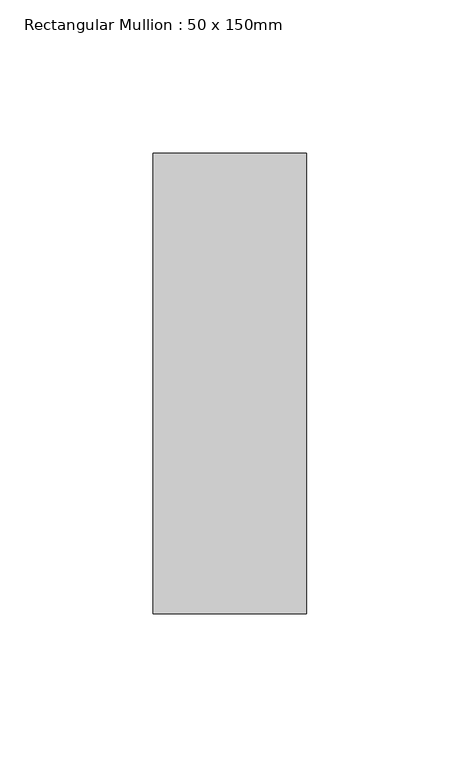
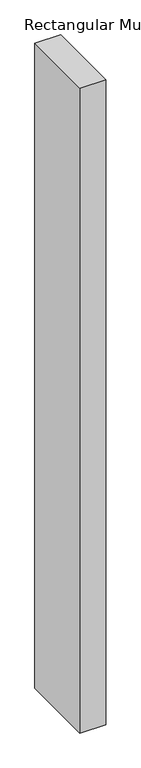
"""IFC4 building model written with IfcOpenShell, lengths in millimetres: member geometry, Rectangular Mullion : 50 x 150mm."""

from ifc_helpers import new_model, si_unit, frame, origin, place, context, project, spatial, polyline, outline, extrude, source, transform, mapped, element, save


def rectangular_mullion_50_x_150mm_0efa07df(model_context):
    return source(origin(), model_context, "Body", "SweptSolid", [
        extrude(outline(polyline([(25.0, 75.0), (25.0, -75.0), (-25.0, -75.0), (-25.0, 75.0), (25.0, 75.0)])), frame((0.0, 0.0, -1315.186135), z_axis=(0.0, 0.0, 1.0), x_axis=(1.0, 0.0, 0.0)), (0.0, 0.0, 1.0), 1315.186135),
    ])


if __name__ == "__main__":
    model = new_model("IFC4")
    model_context = context("Model", 3, world=origin())
    ifc_project = project(units=[si_unit("LENGTHUNIT", "METRE", prefix="MILLI")], contexts=[model_context])
    site = spatial("IfcSite", under=ifc_project)
    building = spatial("IfcBuilding", under=site)
    placement = place(None, origin())
    rectangular_mullion_50_x_150mm_shape = rectangular_mullion_50_x_150mm_0efa07df(model_context)
    element("IfcMember", 1, ObjectType="Rectangular Mullion : 50 x 150mm", at=placement, inside=building, context=model_context, shape_type="MappedRepresentation", body=[
        mapped(rectangular_mullion_50_x_150mm_shape, transform((0.0, 0.0, 0.0), x_axis=(1.0, 0.0, 0.0), y_axis=(0.0, 1.0, 0.0), z_axis=(0.0, 0.0, 1.0))),
    ])
    save(model, "model.ifc")
